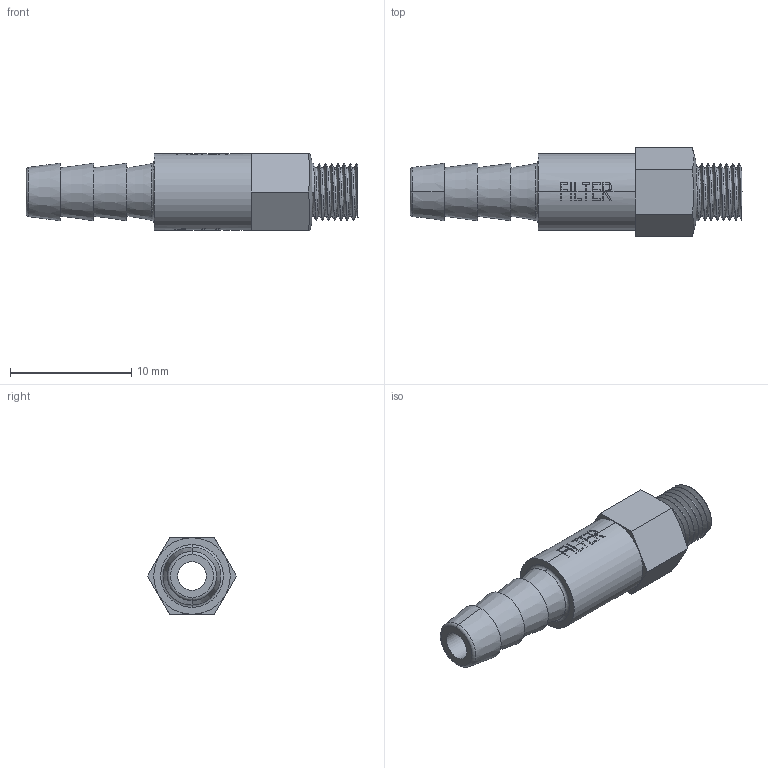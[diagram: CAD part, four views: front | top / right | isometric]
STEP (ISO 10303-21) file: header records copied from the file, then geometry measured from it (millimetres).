
FILE_DESCRIPTION(/* description */ ('SolidWorks IGES file using NURBS representation for surfaces '),/* implementation_level */ '2;1');
FILE_NAME(/* name */ 'K:\Normteile INVENTOR\Air-Logic\Filters\F-960-5-B85.IGS.ipt.stp',/* time_stamp */ '2020-05-27T10:40:04+02:00',/* author */ ('amarsh'),/* organization */ (''),/* preprocessor_version */ 'ST-DEVELOPER v18',/* originating_system */ 'Autodesk Inventor 2020',/* authorisation */ '');
FILE_SCHEMA (('AUTOMOTIVE_DESIGN { 1 0 10303 214 3 1 1 }'));
Length unit declared in the file: millimetre
Products named in the file (1): F-960-5-B85.IGS
Bounding box: 27.38 x 7.33 x 6.35 mm (x, y, z)
Volume: 515.8 mm3; surface area: 784.3 mm2
Topology: 1 solids, 1 shells, 163 faces, 465 edges, 311 vertices
Faces by surface type: plane 79, bspline 41, cylinder 33, cone 6, torus 4
Full cylindrical faces by diameter (mm): 2.36 x1, 4.75 x7
Entity records: 10071 total; most frequent: CARTESIAN_POINT 5979, ORIENTED_EDGE 930, DIRECTION 732, EDGE_CURVE 465, VERTEX_POINT 311, AXIS2_PLACEMENT_3D 255, LINE 222, VECTOR 222
